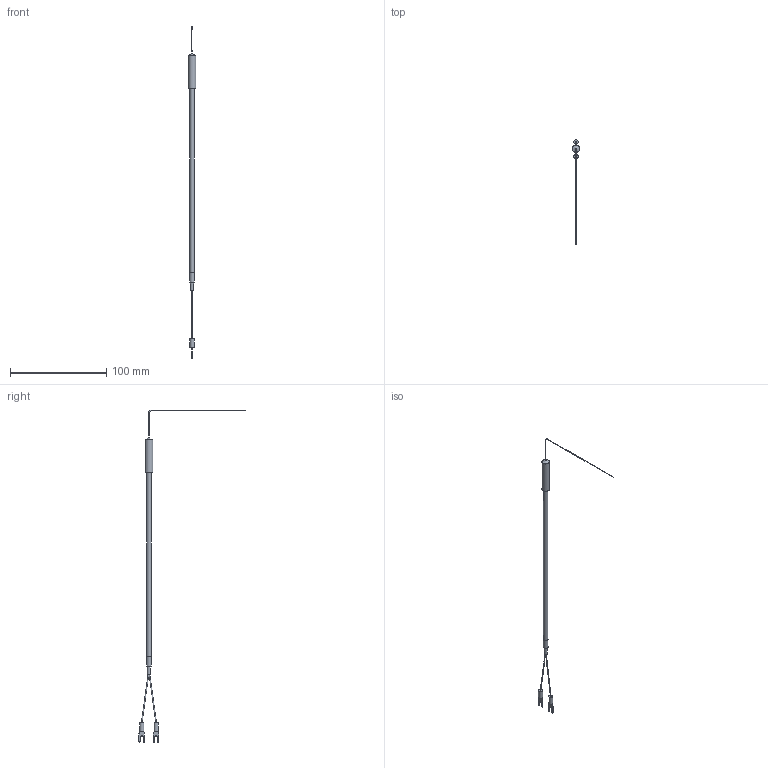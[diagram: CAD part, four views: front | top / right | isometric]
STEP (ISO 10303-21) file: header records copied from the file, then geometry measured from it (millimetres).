
FILE_DESCRIPTION (( 'STEP AP203' ), '1' );
FILE_NAME ('YIT111S-2(0).STEP', '2024-05-29T07:01:40', ( '' ), ( '' ), 'SwSTEP 2.0', 'SolidWorks 2021', '' );
FILE_SCHEMA (( 'CONFIG_CONTROL_DESIGN' ));
Length unit declared in the file: millimetre
Products named in the file (1): YIT111S-2(0)
Bounding box: 8 x 110.43 x 345.25 mm (x, y, z)
Volume: 5924.3 mm3; surface area: 5085.9 mm2
Topology: 1 solids, 1 shells, 70 faces, 166 edges, 107 vertices
Faces by surface type: plane 35, cylinder 22, bspline 8, torus 3, cone 2
Full cylindrical faces by diameter (mm): 0.5 x2, 3.16 x1, 4.5 x2, 4.8 x1, 5 x1, 8 x1
Entity records: 2140 total; most frequent: CARTESIAN_POINT 526, DIRECTION 312, ORIENTED_EDGE 296, EDGE_CURVE 148, AXIS2_PLACEMENT_3D 113, VERTEX_POINT 104, EDGE_LOOP 94, LINE 86
